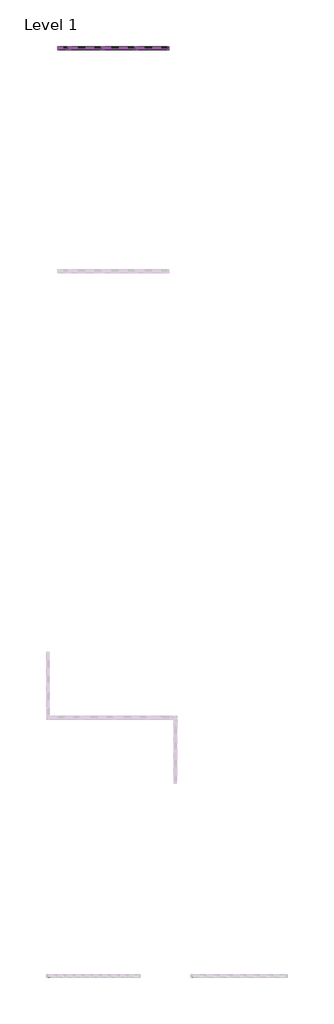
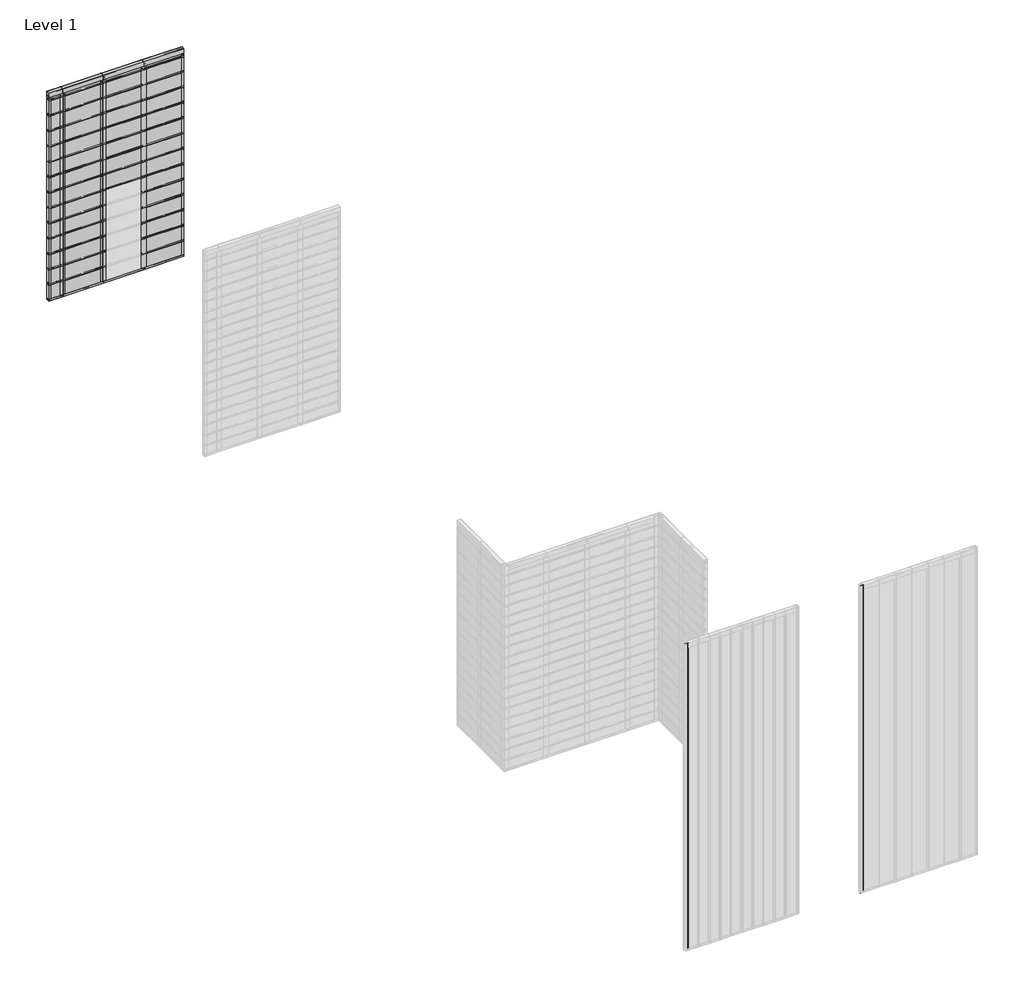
# One storey, part 6 of 6: 78 members, 52 plates.
"""IFC4 building model written with IfcOpenShell, lengths in millimetres."""

from ifc_helpers import new_model, si_unit, origin, place, context, project, spatial, transform, mapped, element, save
from components import rectangular_mullion_fastplank_2_piece_j_trim_top_41258425, rectangular_mullion_fastplank_2_piece_j_trim_top_c2ded550, rectangular_mullion_fastplank_2_piece_j_trim_top_f27fafb0, rectangular_mullion_fastplank_2_piece_vertical_trim_7b95ae3f, rectangular_mullion_fastplank_2_piece_vertical_trim_f2f3523c, rectangular_mullion_fastplank_2_piece_vertical_trim_9380873f, rectangular_mullion_fastplank_general_j_vertical_left_d777bbc9, rectangular_mullion_fastplank_general_j_vertical_left_623ef479, rectangular_mullion_fastplank_general_j_vertical_left_9ba2d4fe, rectangular_mullion_fastplank_perforated_starter_j_trim_76a2169d, rectangular_mullion_fastplank_perforated_starter_j_trim_cc9b52f4, rectangular_mullion_fastplank_perforated_starter_j_trim_a5b82761, plate_89dcd24a, plate_b794fd4a, plate_b0c13ac5, plate_d7aa4930, curtain_panel_curtain_panel_e2700ddb, curtain_panel_curtain_panel_f88c90b2

model = new_model("IFC4")

# Units and contexts
model_context = context("Model", 3, world=origin())
ifc_project = project(units=[si_unit("LENGTHUNIT", "METRE", prefix="MILLI")], contexts=[model_context])

# Site, building, storey
site = spatial("IfcSite", under=ifc_project)
building = spatial("IfcBuilding", under=site)
storey = spatial("IfcBuildingStorey", under=building, Name="Level 1", Elevation=0.0)

# Members
placement = place(None, origin())
rectangular_mullion_fastplank_2_piece_j_trim_top_shape = rectangular_mullion_fastplank_2_piece_j_trim_top_41258425(model_context)
element("IfcMember", 1, ObjectType="Rectangular Mullion : FastPlank_2-Piece-J-Trim-Top", at=placement, inside=storey, context=model_context, shape_type="MappedRepresentation", body=[
    mapped(rectangular_mullion_fastplank_2_piece_j_trim_top_shape, transform((-999.5316441, 9564.9134647, 2061.3058116), x_axis=(0.0, 0.0, 1.0), y_axis=(0.0, 1.0, 0.0), z_axis=(-1.0, 0.0, 0.0))),
])
rectangular_mullion_fastplank_2_piece_j_trim_top_2_shape = rectangular_mullion_fastplank_2_piece_j_trim_top_c2ded550(model_context)
element("IfcMember", 2, ObjectType="Rectangular Mullion : FastPlank_2-Piece-J-Trim-Top", at=placement, inside=storey, context=model_context, shape_type="MappedRepresentation", body=[
    mapped(rectangular_mullion_fastplank_2_piece_j_trim_top_2_shape, transform((-1892.9700325, 9564.9134647, 2061.3058116), x_axis=(0.0, 0.0, 1.0), y_axis=(0.0, 1.0, 0.0), z_axis=(-1.0, 0.0, 0.0))),
])
rectangular_mullion_fastplank_2_piece_j_trim_top_3_shape = rectangular_mullion_fastplank_2_piece_j_trim_top_f27fafb0(model_context)
element("IfcMember", 3, ObjectType="Rectangular Mullion : FastPlank_2-Piece-J-Trim-Top", at=placement, inside=storey, context=model_context, shape_type="MappedRepresentation", body=[
    mapped(rectangular_mullion_fastplank_2_piece_j_trim_top_3_shape, transform((-1380.5316441, 9564.9134647, 2061.3058116), x_axis=(0.0, 0.0, 1.0), y_axis=(0.0, 1.0, 0.0), z_axis=(-1.0, 0.0, 0.0))),
])
element("IfcMember", 4, ObjectType="Rectangular Mullion : FastPlank_2-Piece-J-Trim-Top", at=placement, inside=storey, context=model_context, shape_type="MappedRepresentation", body=[
    mapped(rectangular_mullion_fastplank_2_piece_j_trim_top_3_shape, transform((-1761.5316441, 9564.9134647, 2061.3058116), x_axis=(0.0, 0.0, 1.0), y_axis=(0.0, 1.0, 0.0), z_axis=(-1.0, 0.0, 0.0))),
])
rectangular_mullion_fastplank_2_piece_vertical_trim_shape = rectangular_mullion_fastplank_2_piece_vertical_trim_7b95ae3f(model_context)
element("IfcMember", 5, ObjectType="Rectangular Mullion : FastPlank_2-Piece-Vertical-Trim", at=placement, inside=storey, context=model_context, shape_type="MappedRepresentation", body=[
    mapped(rectangular_mullion_fastplank_2_piece_vertical_trim_shape, transform((-999.5316441, 9564.9134647, 19.05), x_axis=(-1.0, 0.0, 0.0), y_axis=(0.0, 1.0, 0.0), z_axis=(0.0, 0.0, -1.0))),
])
element("IfcMember", 6, ObjectType="Rectangular Mullion : FastPlank_2-Piece-Vertical-Trim", at=placement, inside=storey, context=model_context, shape_type="MappedRepresentation", body=[
    mapped(rectangular_mullion_fastplank_2_piece_vertical_trim_shape, transform((-1380.5316441, 9564.9134647, 19.05), x_axis=(-1.0, 0.0, 0.0), y_axis=(0.0, 1.0, 0.0), z_axis=(0.0, 0.0, -1.0))),
])
element("IfcMember", 7, ObjectType="Rectangular Mullion : FastPlank_2-Piece-Vertical-Trim", at=placement, inside=storey, context=model_context, shape_type="MappedRepresentation", body=[
    mapped(rectangular_mullion_fastplank_2_piece_vertical_trim_shape, transform((-1761.5316441, 9564.9134647, 19.05), x_axis=(-1.0, 0.0, 0.0), y_axis=(0.0, 1.0, 0.0), z_axis=(0.0, 0.0, -1.0))),
])
rectangular_mullion_fastplank_2_piece_vertical_trim_2_shape = rectangular_mullion_fastplank_2_piece_vertical_trim_f2f3523c(model_context)
element("IfcMember", 8, ObjectType="Rectangular Mullion : FastPlank_2-Piece-Vertical-Trim", at=placement, inside=storey, context=model_context, shape_type="MappedRepresentation", body=[
    mapped(rectangular_mullion_fastplank_2_piece_vertical_trim_2_shape, transform((-999.5316441, 9564.9134647, 153.7000189), x_axis=(-1.0, 0.0, 0.0), y_axis=(0.0, 1.0, 0.0), z_axis=(0.0, 0.0, -1.0))),
])
element("IfcMember", 9, ObjectType="Rectangular Mullion : FastPlank_2-Piece-Vertical-Trim", at=placement, inside=storey, context=model_context, shape_type="MappedRepresentation", body=[
    mapped(rectangular_mullion_fastplank_2_piece_vertical_trim_2_shape, transform((-999.5316441, 9564.9134647, 306.1000189), x_axis=(-1.0, 0.0, 0.0), y_axis=(0.0, 1.0, 0.0), z_axis=(0.0, 0.0, -1.0))),
])
element("IfcMember", 10, ObjectType="Rectangular Mullion : FastPlank_2-Piece-Vertical-Trim", at=placement, inside=storey, context=model_context, shape_type="MappedRepresentation", body=[
    mapped(rectangular_mullion_fastplank_2_piece_vertical_trim_2_shape, transform((-999.5316441, 9564.9134647, 458.5000189), x_axis=(-1.0, 0.0, 0.0), y_axis=(0.0, 1.0, 0.0), z_axis=(0.0, 0.0, -1.0))),
])
element("IfcMember", 11, ObjectType="Rectangular Mullion : FastPlank_2-Piece-Vertical-Trim", at=placement, inside=storey, context=model_context, shape_type="MappedRepresentation", body=[
    mapped(rectangular_mullion_fastplank_2_piece_vertical_trim_2_shape, transform((-999.5316441, 9564.9134647, 610.9000189), x_axis=(-1.0, 0.0, 0.0), y_axis=(0.0, 1.0, 0.0), z_axis=(0.0, 0.0, -1.0))),
])
element("IfcMember", 12, ObjectType="Rectangular Mullion : FastPlank_2-Piece-Vertical-Trim", at=placement, inside=storey, context=model_context, shape_type="MappedRepresentation", body=[
    mapped(rectangular_mullion_fastplank_2_piece_vertical_trim_2_shape, transform((-999.5316441, 9564.9134647, 763.3000189), x_axis=(-1.0, 0.0, 0.0), y_axis=(0.0, 1.0, 0.0), z_axis=(0.0, 0.0, -1.0))),
])
element("IfcMember", 13, ObjectType="Rectangular Mullion : FastPlank_2-Piece-Vertical-Trim", at=placement, inside=storey, context=model_context, shape_type="MappedRepresentation", body=[
    mapped(rectangular_mullion_fastplank_2_piece_vertical_trim_2_shape, transform((-999.5316441, 9564.9134647, 915.7000189), x_axis=(-1.0, 0.0, 0.0), y_axis=(0.0, 1.0, 0.0), z_axis=(0.0, 0.0, -1.0))),
])
element("IfcMember", 14, ObjectType="Rectangular Mullion : FastPlank_2-Piece-Vertical-Trim", at=placement, inside=storey, context=model_context, shape_type="MappedRepresentation", body=[
    mapped(rectangular_mullion_fastplank_2_piece_vertical_trim_2_shape, transform((-999.5316441, 9564.9134647, 1068.1000189), x_axis=(-1.0, 0.0, 0.0), y_axis=(0.0, 1.0, 0.0), z_axis=(0.0, 0.0, -1.0))),
])
element("IfcMember", 15, ObjectType="Rectangular Mullion : FastPlank_2-Piece-Vertical-Trim", at=placement, inside=storey, context=model_context, shape_type="MappedRepresentation", body=[
    mapped(rectangular_mullion_fastplank_2_piece_vertical_trim_2_shape, transform((-999.5316441, 9564.9134647, 1220.5000189), x_axis=(-1.0, 0.0, 0.0), y_axis=(0.0, 1.0, 0.0), z_axis=(0.0, 0.0, -1.0))),
])
element("IfcMember", 16, ObjectType="Rectangular Mullion : FastPlank_2-Piece-Vertical-Trim", at=placement, inside=storey, context=model_context, shape_type="MappedRepresentation", body=[
    mapped(rectangular_mullion_fastplank_2_piece_vertical_trim_2_shape, transform((-999.5316441, 9564.9134647, 1372.9000189), x_axis=(-1.0, 0.0, 0.0), y_axis=(0.0, 1.0, 0.0), z_axis=(0.0, 0.0, -1.0))),
])
element("IfcMember", 17, ObjectType="Rectangular Mullion : FastPlank_2-Piece-Vertical-Trim", at=placement, inside=storey, context=model_context, shape_type="MappedRepresentation", body=[
    mapped(rectangular_mullion_fastplank_2_piece_vertical_trim_2_shape, transform((-999.5316441, 9564.9134647, 1525.3000189), x_axis=(-1.0, 0.0, 0.0), y_axis=(0.0, 1.0, 0.0), z_axis=(0.0, 0.0, -1.0))),
])
element("IfcMember", 18, ObjectType="Rectangular Mullion : FastPlank_2-Piece-Vertical-Trim", at=placement, inside=storey, context=model_context, shape_type="MappedRepresentation", body=[
    mapped(rectangular_mullion_fastplank_2_piece_vertical_trim_2_shape, transform((-999.5316441, 9564.9134647, 1677.7000189), x_axis=(-1.0, 0.0, 0.0), y_axis=(0.0, 1.0, 0.0), z_axis=(0.0, 0.0, -1.0))),
])
element("IfcMember", 19, ObjectType="Rectangular Mullion : FastPlank_2-Piece-Vertical-Trim", at=placement, inside=storey, context=model_context, shape_type="MappedRepresentation", body=[
    mapped(rectangular_mullion_fastplank_2_piece_vertical_trim_2_shape, transform((-1380.5316441, 9564.9134647, 153.7000189), x_axis=(-1.0, 0.0, 0.0), y_axis=(0.0, 1.0, 0.0), z_axis=(0.0, 0.0, -1.0))),
])
element("IfcMember", 20, ObjectType="Rectangular Mullion : FastPlank_2-Piece-Vertical-Trim", at=placement, inside=storey, context=model_context, shape_type="MappedRepresentation", body=[
    mapped(rectangular_mullion_fastplank_2_piece_vertical_trim_2_shape, transform((-1761.5316441, 9564.9134647, 153.7000189), x_axis=(-1.0, 0.0, 0.0), y_axis=(0.0, 1.0, 0.0), z_axis=(0.0, 0.0, -1.0))),
])
element("IfcMember", 21, ObjectType="Rectangular Mullion : FastPlank_2-Piece-Vertical-Trim", at=placement, inside=storey, context=model_context, shape_type="MappedRepresentation", body=[
    mapped(rectangular_mullion_fastplank_2_piece_vertical_trim_2_shape, transform((-1380.5316441, 9564.9134647, 306.1000189), x_axis=(-1.0, 0.0, 0.0), y_axis=(0.0, 1.0, 0.0), z_axis=(0.0, 0.0, -1.0))),
])
element("IfcMember", 22, ObjectType="Rectangular Mullion : FastPlank_2-Piece-Vertical-Trim", at=placement, inside=storey, context=model_context, shape_type="MappedRepresentation", body=[
    mapped(rectangular_mullion_fastplank_2_piece_vertical_trim_2_shape, transform((-1761.5316441, 9564.9134647, 306.1000189), x_axis=(-1.0, 0.0, 0.0), y_axis=(0.0, 1.0, 0.0), z_axis=(0.0, 0.0, -1.0))),
])
element("IfcMember", 23, ObjectType="Rectangular Mullion : FastPlank_2-Piece-Vertical-Trim", at=placement, inside=storey, context=model_context, shape_type="MappedRepresentation", body=[
    mapped(rectangular_mullion_fastplank_2_piece_vertical_trim_2_shape, transform((-1380.5316441, 9564.9134647, 458.5000189), x_axis=(-1.0, 0.0, 0.0), y_axis=(0.0, 1.0, 0.0), z_axis=(0.0, 0.0, -1.0))),
])
element("IfcMember", 24, ObjectType="Rectangular Mullion : FastPlank_2-Piece-Vertical-Trim", at=placement, inside=storey, context=model_context, shape_type="MappedRepresentation", body=[
    mapped(rectangular_mullion_fastplank_2_piece_vertical_trim_2_shape, transform((-1761.5316441, 9564.9134647, 458.5000189), x_axis=(-1.0, 0.0, 0.0), y_axis=(0.0, 1.0, 0.0), z_axis=(0.0, 0.0, -1.0))),
])
element("IfcMember", 25, ObjectType="Rectangular Mullion : FastPlank_2-Piece-Vertical-Trim", at=placement, inside=storey, context=model_context, shape_type="MappedRepresentation", body=[
    mapped(rectangular_mullion_fastplank_2_piece_vertical_trim_2_shape, transform((-1380.5316441, 9564.9134647, 610.9000189), x_axis=(-1.0, 0.0, 0.0), y_axis=(0.0, 1.0, 0.0), z_axis=(0.0, 0.0, -1.0))),
])
element("IfcMember", 26, ObjectType="Rectangular Mullion : FastPlank_2-Piece-Vertical-Trim", at=placement, inside=storey, context=model_context, shape_type="MappedRepresentation", body=[
    mapped(rectangular_mullion_fastplank_2_piece_vertical_trim_2_shape, transform((-1761.5316441, 9564.9134647, 610.9000189), x_axis=(-1.0, 0.0, 0.0), y_axis=(0.0, 1.0, 0.0), z_axis=(0.0, 0.0, -1.0))),
])
element("IfcMember", 27, ObjectType="Rectangular Mullion : FastPlank_2-Piece-Vertical-Trim", at=placement, inside=storey, context=model_context, shape_type="MappedRepresentation", body=[
    mapped(rectangular_mullion_fastplank_2_piece_vertical_trim_2_shape, transform((-1380.5316441, 9564.9134647, 763.3000189), x_axis=(-1.0, 0.0, 0.0), y_axis=(0.0, 1.0, 0.0), z_axis=(0.0, 0.0, -1.0))),
])
element("IfcMember", 28, ObjectType="Rectangular Mullion : FastPlank_2-Piece-Vertical-Trim", at=placement, inside=storey, context=model_context, shape_type="MappedRepresentation", body=[
    mapped(rectangular_mullion_fastplank_2_piece_vertical_trim_2_shape, transform((-1761.5316441, 9564.9134647, 763.3000189), x_axis=(-1.0, 0.0, 0.0), y_axis=(0.0, 1.0, 0.0), z_axis=(0.0, 0.0, -1.0))),
])
element("IfcMember", 29, ObjectType="Rectangular Mullion : FastPlank_2-Piece-Vertical-Trim", at=placement, inside=storey, context=model_context, shape_type="MappedRepresentation", body=[
    mapped(rectangular_mullion_fastplank_2_piece_vertical_trim_2_shape, transform((-1380.5316441, 9564.9134647, 915.7000189), x_axis=(-1.0, 0.0, 0.0), y_axis=(0.0, 1.0, 0.0), z_axis=(0.0, 0.0, -1.0))),
])
element("IfcMember", 30, ObjectType="Rectangular Mullion : FastPlank_2-Piece-Vertical-Trim", at=placement, inside=storey, context=model_context, shape_type="MappedRepresentation", body=[
    mapped(rectangular_mullion_fastplank_2_piece_vertical_trim_2_shape, transform((-1761.5316441, 9564.9134647, 915.7000189), x_axis=(-1.0, 0.0, 0.0), y_axis=(0.0, 1.0, 0.0), z_axis=(0.0, 0.0, -1.0))),
])
element("IfcMember", 31, ObjectType="Rectangular Mullion : FastPlank_2-Piece-Vertical-Trim", at=placement, inside=storey, context=model_context, shape_type="MappedRepresentation", body=[
    mapped(rectangular_mullion_fastplank_2_piece_vertical_trim_2_shape, transform((-1380.5316441, 9564.9134647, 1068.1000189), x_axis=(-1.0, 0.0, 0.0), y_axis=(0.0, 1.0, 0.0), z_axis=(0.0, 0.0, -1.0))),
])
element("IfcMember", 32, ObjectType="Rectangular Mullion : FastPlank_2-Piece-Vertical-Trim", at=placement, inside=storey, context=model_context, shape_type="MappedRepresentation", body=[
    mapped(rectangular_mullion_fastplank_2_piece_vertical_trim_2_shape, transform((-1761.5316441, 9564.9134647, 1068.1000189), x_axis=(-1.0, 0.0, 0.0), y_axis=(0.0, 1.0, 0.0), z_axis=(0.0, 0.0, -1.0))),
])
element("IfcMember", 33, ObjectType="Rectangular Mullion : FastPlank_2-Piece-Vertical-Trim", at=placement, inside=storey, context=model_context, shape_type="MappedRepresentation", body=[
    mapped(rectangular_mullion_fastplank_2_piece_vertical_trim_2_shape, transform((-1380.5316441, 9564.9134647, 1220.5000189), x_axis=(-1.0, 0.0, 0.0), y_axis=(0.0, 1.0, 0.0), z_axis=(0.0, 0.0, -1.0))),
])
element("IfcMember", 34, ObjectType="Rectangular Mullion : FastPlank_2-Piece-Vertical-Trim", at=placement, inside=storey, context=model_context, shape_type="MappedRepresentation", body=[
    mapped(rectangular_mullion_fastplank_2_piece_vertical_trim_2_shape, transform((-1761.5316441, 9564.9134647, 1220.5000189), x_axis=(-1.0, 0.0, 0.0), y_axis=(0.0, 1.0, 0.0), z_axis=(0.0, 0.0, -1.0))),
])
element("IfcMember", 35, ObjectType="Rectangular Mullion : FastPlank_2-Piece-Vertical-Trim", at=placement, inside=storey, context=model_context, shape_type="MappedRepresentation", body=[
    mapped(rectangular_mullion_fastplank_2_piece_vertical_trim_2_shape, transform((-1380.5316441, 9564.9134647, 1372.9000189), x_axis=(-1.0, 0.0, 0.0), y_axis=(0.0, 1.0, 0.0), z_axis=(0.0, 0.0, -1.0))),
])
element("IfcMember", 36, ObjectType="Rectangular Mullion : FastPlank_2-Piece-Vertical-Trim", at=placement, inside=storey, context=model_context, shape_type="MappedRepresentation", body=[
    mapped(rectangular_mullion_fastplank_2_piece_vertical_trim_2_shape, transform((-1761.5316441, 9564.9134647, 1372.9000189), x_axis=(-1.0, 0.0, 0.0), y_axis=(0.0, 1.0, 0.0), z_axis=(0.0, 0.0, -1.0))),
])
element("IfcMember", 37, ObjectType="Rectangular Mullion : FastPlank_2-Piece-Vertical-Trim", at=placement, inside=storey, context=model_context, shape_type="MappedRepresentation", body=[
    mapped(rectangular_mullion_fastplank_2_piece_vertical_trim_2_shape, transform((-1380.5316441, 9564.9134647, 1525.3000189), x_axis=(-1.0, 0.0, 0.0), y_axis=(0.0, 1.0, 0.0), z_axis=(0.0, 0.0, -1.0))),
])
element("IfcMember", 38, ObjectType="Rectangular Mullion : FastPlank_2-Piece-Vertical-Trim", at=placement, inside=storey, context=model_context, shape_type="MappedRepresentation", body=[
    mapped(rectangular_mullion_fastplank_2_piece_vertical_trim_2_shape, transform((-1761.5316441, 9564.9134647, 1525.3000189), x_axis=(-1.0, 0.0, 0.0), y_axis=(0.0, 1.0, 0.0), z_axis=(0.0, 0.0, -1.0))),
])
element("IfcMember", 39, ObjectType="Rectangular Mullion : FastPlank_2-Piece-Vertical-Trim", at=placement, inside=storey, context=model_context, shape_type="MappedRepresentation", body=[
    mapped(rectangular_mullion_fastplank_2_piece_vertical_trim_2_shape, transform((-1380.5316441, 9564.9134647, 1677.7000189), x_axis=(-1.0, 0.0, 0.0), y_axis=(0.0, 1.0, 0.0), z_axis=(0.0, 0.0, -1.0))),
])
element("IfcMember", 40, ObjectType="Rectangular Mullion : FastPlank_2-Piece-Vertical-Trim", at=placement, inside=storey, context=model_context, shape_type="MappedRepresentation", body=[
    mapped(rectangular_mullion_fastplank_2_piece_vertical_trim_2_shape, transform((-1761.5316441, 9564.9134647, 1677.7000189), x_axis=(-1.0, 0.0, 0.0), y_axis=(0.0, 1.0, 0.0), z_axis=(0.0, 0.0, -1.0))),
])
element("IfcMember", 41, ObjectType="Rectangular Mullion : FastPlank_2-Piece-Vertical-Trim", at=placement, inside=storey, context=model_context, shape_type="MappedRepresentation", body=[
    mapped(rectangular_mullion_fastplank_2_piece_vertical_trim_2_shape, transform((-999.5316441, 9564.9134647, 1830.1000189), x_axis=(-1.0, 0.0, 0.0), y_axis=(0.0, 1.0, 0.0), z_axis=(0.0, 0.0, -1.0))),
])
element("IfcMember", 42, ObjectType="Rectangular Mullion : FastPlank_2-Piece-Vertical-Trim", at=placement, inside=storey, context=model_context, shape_type="MappedRepresentation", body=[
    mapped(rectangular_mullion_fastplank_2_piece_vertical_trim_2_shape, transform((-1380.5316441, 9564.9134647, 1830.1000189), x_axis=(-1.0, 0.0, 0.0), y_axis=(0.0, 1.0, 0.0), z_axis=(0.0, 0.0, -1.0))),
])
element("IfcMember", 43, ObjectType="Rectangular Mullion : FastPlank_2-Piece-Vertical-Trim", at=placement, inside=storey, context=model_context, shape_type="MappedRepresentation", body=[
    mapped(rectangular_mullion_fastplank_2_piece_vertical_trim_2_shape, transform((-1761.5316441, 9564.9134647, 1830.1000189), x_axis=(-1.0, 0.0, 0.0), y_axis=(0.0, 1.0, 0.0), z_axis=(0.0, 0.0, -1.0))),
])
rectangular_mullion_fastplank_2_piece_vertical_trim_3_shape = rectangular_mullion_fastplank_2_piece_vertical_trim_9380873f(model_context)
element("IfcMember", 44, ObjectType="Rectangular Mullion : FastPlank_2-Piece-Vertical-Trim", at=placement, inside=storey, context=model_context, shape_type="MappedRepresentation", body=[
    mapped(rectangular_mullion_fastplank_2_piece_vertical_trim_3_shape, transform((-999.5316441, 9564.9134647, 1982.5000189), x_axis=(-1.0, 0.0, 0.0), y_axis=(0.0, 1.0, 0.0), z_axis=(0.0, 0.0, -1.0))),
])
element("IfcMember", 45, ObjectType="Rectangular Mullion : FastPlank_2-Piece-Vertical-Trim", at=placement, inside=storey, context=model_context, shape_type="MappedRepresentation", body=[
    mapped(rectangular_mullion_fastplank_2_piece_vertical_trim_3_shape, transform((-1380.5316441, 9564.9134647, 1982.5000189), x_axis=(-1.0, 0.0, 0.0), y_axis=(0.0, 1.0, 0.0), z_axis=(0.0, 0.0, -1.0))),
])
element("IfcMember", 46, ObjectType="Rectangular Mullion : FastPlank_2-Piece-Vertical-Trim", at=placement, inside=storey, context=model_context, shape_type="MappedRepresentation", body=[
    mapped(rectangular_mullion_fastplank_2_piece_vertical_trim_3_shape, transform((-1761.5316441, 9564.9134647, 1982.5000189), x_axis=(-1.0, 0.0, 0.0), y_axis=(0.0, 1.0, 0.0), z_axis=(0.0, 0.0, -1.0))),
])
rectangular_mullion_fastplank_general_j_vertical_left_shape = rectangular_mullion_fastplank_general_j_vertical_left_d777bbc9(model_context)
element("IfcMember", 47, ObjectType="Rectangular Mullion : FastPlank_General-J-Vertical-Left", at=placement, inside=storey, context=model_context, shape_type="MappedRepresentation", body=[
    mapped(rectangular_mullion_fastplank_general_j_vertical_left_shape, transform((-1892.9700325, 9564.9134647, 19.05), x_axis=(-1.0, 0.0, 0.0), y_axis=(0.0, 1.0, 0.0), z_axis=(0.0, 0.0, -1.0))),
])
rectangular_mullion_fastplank_general_j_vertical_left_2_shape = rectangular_mullion_fastplank_general_j_vertical_left_623ef479(model_context)
element("IfcMember", 48, ObjectType="Rectangular Mullion : FastPlank_General-J-Vertical-Left", at=placement, inside=storey, context=model_context, shape_type="MappedRepresentation", body=[
    mapped(rectangular_mullion_fastplank_general_j_vertical_left_2_shape, transform((-1892.9700325, 9564.9134647, 153.7000189), x_axis=(-1.0, 0.0, 0.0), y_axis=(0.0, 1.0, 0.0), z_axis=(0.0, 0.0, -1.0))),
])
element("IfcMember", 49, ObjectType="Rectangular Mullion : FastPlank_General-J-Vertical-Left", at=placement, inside=storey, context=model_context, shape_type="MappedRepresentation", body=[
    mapped(rectangular_mullion_fastplank_general_j_vertical_left_2_shape, transform((-1892.9700325, 9564.9134647, 306.1000189), x_axis=(-1.0, 0.0, 0.0), y_axis=(0.0, 1.0, 0.0), z_axis=(0.0, 0.0, -1.0))),
])
element("IfcMember", 50, ObjectType="Rectangular Mullion : FastPlank_General-J-Vertical-Left", at=placement, inside=storey, context=model_context, shape_type="MappedRepresentation", body=[
    mapped(rectangular_mullion_fastplank_general_j_vertical_left_2_shape, transform((-1892.9700325, 9564.9134647, 458.5000189), x_axis=(-1.0, 0.0, 0.0), y_axis=(0.0, 1.0, 0.0), z_axis=(0.0, 0.0, -1.0))),
])
element("IfcMember", 51, ObjectType="Rectangular Mullion : FastPlank_General-J-Vertical-Left", at=placement, inside=storey, context=model_context, shape_type="MappedRepresentation", body=[
    mapped(rectangular_mullion_fastplank_general_j_vertical_left_2_shape, transform((-1892.9700325, 9564.9134647, 610.9000189), x_axis=(-1.0, 0.0, 0.0), y_axis=(0.0, 1.0, 0.0), z_axis=(0.0, 0.0, -1.0))),
])
element("IfcMember", 52, ObjectType="Rectangular Mullion : FastPlank_General-J-Vertical-Left", at=placement, inside=storey, context=model_context, shape_type="MappedRepresentation", body=[
    mapped(rectangular_mullion_fastplank_general_j_vertical_left_2_shape, transform((-1892.9700325, 9564.9134647, 763.3000189), x_axis=(-1.0, 0.0, 0.0), y_axis=(0.0, 1.0, 0.0), z_axis=(0.0, 0.0, -1.0))),
])
element("IfcMember", 53, ObjectType="Rectangular Mullion : FastPlank_General-J-Vertical-Left", at=placement, inside=storey, context=model_context, shape_type="MappedRepresentation", body=[
    mapped(rectangular_mullion_fastplank_general_j_vertical_left_2_shape, transform((-1892.9700325, 9564.9134647, 915.7000189), x_axis=(-1.0, 0.0, 0.0), y_axis=(0.0, 1.0, 0.0), z_axis=(0.0, 0.0, -1.0))),
])
element("IfcMember", 54, ObjectType="Rectangular Mullion : FastPlank_General-J-Vertical-Left", at=placement, inside=storey, context=model_context, shape_type="MappedRepresentation", body=[
    mapped(rectangular_mullion_fastplank_general_j_vertical_left_2_shape, transform((-1892.9700325, 9564.9134647, 1068.1000189), x_axis=(-1.0, 0.0, 0.0), y_axis=(0.0, 1.0, 0.0), z_axis=(0.0, 0.0, -1.0))),
])
element("IfcMember", 55, ObjectType="Rectangular Mullion : FastPlank_General-J-Vertical-Left", at=placement, inside=storey, context=model_context, shape_type="MappedRepresentation", body=[
    mapped(rectangular_mullion_fastplank_general_j_vertical_left_2_shape, transform((-1892.9700325, 9564.9134647, 1220.5000189), x_axis=(-1.0, 0.0, 0.0), y_axis=(0.0, 1.0, 0.0), z_axis=(0.0, 0.0, -1.0))),
])
element("IfcMember", 56, ObjectType="Rectangular Mullion : FastPlank_General-J-Vertical-Left", at=placement, inside=storey, context=model_context, shape_type="MappedRepresentation", body=[
    mapped(rectangular_mullion_fastplank_general_j_vertical_left_2_shape, transform((-1892.9700325, 9564.9134647, 1372.9000189), x_axis=(-1.0, 0.0, 0.0), y_axis=(0.0, 1.0, 0.0), z_axis=(0.0, 0.0, -1.0))),
])
element("IfcMember", 57, ObjectType="Rectangular Mullion : FastPlank_General-J-Vertical-Left", at=placement, inside=storey, context=model_context, shape_type="MappedRepresentation", body=[
    mapped(rectangular_mullion_fastplank_general_j_vertical_left_2_shape, transform((-1892.9700325, 9564.9134647, 1525.3000189), x_axis=(-1.0, 0.0, 0.0), y_axis=(0.0, 1.0, 0.0), z_axis=(0.0, 0.0, -1.0))),
])
element("IfcMember", 58, ObjectType="Rectangular Mullion : FastPlank_General-J-Vertical-Left", at=placement, inside=storey, context=model_context, shape_type="MappedRepresentation", body=[
    mapped(rectangular_mullion_fastplank_general_j_vertical_left_2_shape, transform((-1892.9700325, 9564.9134647, 1677.7000189), x_axis=(-1.0, 0.0, 0.0), y_axis=(0.0, 1.0, 0.0), z_axis=(0.0, 0.0, -1.0))),
])
element("IfcMember", 59, ObjectType="Rectangular Mullion : FastPlank_General-J-Vertical-Left", at=placement, inside=storey, context=model_context, shape_type="MappedRepresentation", body=[
    mapped(rectangular_mullion_fastplank_general_j_vertical_left_2_shape, transform((-1892.9700325, 9564.9134647, 1830.1000189), x_axis=(-1.0, 0.0, 0.0), y_axis=(0.0, 1.0, 0.0), z_axis=(0.0, 0.0, -1.0))),
])
rectangular_mullion_fastplank_general_j_vertical_left_3_shape = rectangular_mullion_fastplank_general_j_vertical_left_9ba2d4fe(model_context)
element("IfcMember", 60, ObjectType="Rectangular Mullion : FastPlank_General-J-Vertical-Left", at=placement, inside=storey, context=model_context, shape_type="MappedRepresentation", body=[
    mapped(rectangular_mullion_fastplank_general_j_vertical_left_3_shape, transform((-1892.9700325, 9564.9134647, 1982.5000189), x_axis=(-1.0, 0.0, 0.0), y_axis=(0.0, 1.0, 0.0), z_axis=(0.0, 0.0, -1.0))),
])
element("IfcMember", 61, ObjectType="Rectangular Mullion : FastPlank_General-J-Vertical-Right", at=placement, inside=storey, context=model_context, shape_type="MappedRepresentation", body=[
    mapped(rectangular_mullion_fastplank_general_j_vertical_left_shape, transform((-622.9700325, 9564.9134647, 153.7000189), x_axis=(1.0, 0.0, 0.0), y_axis=(0.0, 1.0, 0.0), z_axis=(0.0, 0.0, 1.0))),
])
element("IfcMember", 62, ObjectType="Rectangular Mullion : FastPlank_General-J-Vertical-Right", at=placement, inside=storey, context=model_context, shape_type="MappedRepresentation", body=[
    mapped(rectangular_mullion_fastplank_general_j_vertical_left_2_shape, transform((-622.9700325, 9564.9134647, 306.1000189), x_axis=(1.0, 0.0, 0.0), y_axis=(0.0, 1.0, 0.0), z_axis=(0.0, 0.0, 1.0))),
])
element("IfcMember", 63, ObjectType="Rectangular Mullion : FastPlank_General-J-Vertical-Right", at=placement, inside=storey, context=model_context, shape_type="MappedRepresentation", body=[
    mapped(rectangular_mullion_fastplank_general_j_vertical_left_2_shape, transform((-622.9700325, 9564.9134647, 458.5000189), x_axis=(1.0, 0.0, 0.0), y_axis=(0.0, 1.0, 0.0), z_axis=(0.0, 0.0, 1.0))),
])
element("IfcMember", 64, ObjectType="Rectangular Mullion : FastPlank_General-J-Vertical-Right", at=placement, inside=storey, context=model_context, shape_type="MappedRepresentation", body=[
    mapped(rectangular_mullion_fastplank_general_j_vertical_left_2_shape, transform((-622.9700325, 9564.9134647, 610.9000189), x_axis=(1.0, 0.0, 0.0), y_axis=(0.0, 1.0, 0.0), z_axis=(0.0, 0.0, 1.0))),
])
element("IfcMember", 65, ObjectType="Rectangular Mullion : FastPlank_General-J-Vertical-Right", at=placement, inside=storey, context=model_context, shape_type="MappedRepresentation", body=[
    mapped(rectangular_mullion_fastplank_general_j_vertical_left_2_shape, transform((-622.9700325, 9564.9134647, 763.3000189), x_axis=(1.0, 0.0, 0.0), y_axis=(0.0, 1.0, 0.0), z_axis=(0.0, 0.0, 1.0))),
])
element("IfcMember", 66, ObjectType="Rectangular Mullion : FastPlank_General-J-Vertical-Right", at=placement, inside=storey, context=model_context, shape_type="MappedRepresentation", body=[
    mapped(rectangular_mullion_fastplank_general_j_vertical_left_2_shape, transform((-622.9700325, 9564.9134647, 915.7000189), x_axis=(1.0, 0.0, 0.0), y_axis=(0.0, 1.0, 0.0), z_axis=(0.0, 0.0, 1.0))),
])
element("IfcMember", 67, ObjectType="Rectangular Mullion : FastPlank_General-J-Vertical-Right", at=placement, inside=storey, context=model_context, shape_type="MappedRepresentation", body=[
    mapped(rectangular_mullion_fastplank_general_j_vertical_left_2_shape, transform((-622.9700325, 9564.9134647, 1068.1000189), x_axis=(1.0, 0.0, 0.0), y_axis=(0.0, 1.0, 0.0), z_axis=(0.0, 0.0, 1.0))),
])
element("IfcMember", 68, ObjectType="Rectangular Mullion : FastPlank_General-J-Vertical-Right", at=placement, inside=storey, context=model_context, shape_type="MappedRepresentation", body=[
    mapped(rectangular_mullion_fastplank_general_j_vertical_left_2_shape, transform((-622.9700325, 9564.9134647, 1220.5000189), x_axis=(1.0, 0.0, 0.0), y_axis=(0.0, 1.0, 0.0), z_axis=(0.0, 0.0, 1.0))),
])
element("IfcMember", 69, ObjectType="Rectangular Mullion : FastPlank_General-J-Vertical-Right", at=placement, inside=storey, context=model_context, shape_type="MappedRepresentation", body=[
    mapped(rectangular_mullion_fastplank_general_j_vertical_left_2_shape, transform((-622.9700325, 9564.9134647, 1372.9000189), x_axis=(1.0, 0.0, 0.0), y_axis=(0.0, 1.0, 0.0), z_axis=(0.0, 0.0, 1.0))),
])
element("IfcMember", 70, ObjectType="Rectangular Mullion : FastPlank_General-J-Vertical-Right", at=placement, inside=storey, context=model_context, shape_type="MappedRepresentation", body=[
    mapped(rectangular_mullion_fastplank_general_j_vertical_left_2_shape, transform((-622.9700325, 9564.9134647, 1525.3000189), x_axis=(1.0, 0.0, 0.0), y_axis=(0.0, 1.0, 0.0), z_axis=(0.0, 0.0, 1.0))),
])
element("IfcMember", 71, ObjectType="Rectangular Mullion : FastPlank_General-J-Vertical-Right", at=placement, inside=storey, context=model_context, shape_type="MappedRepresentation", body=[
    mapped(rectangular_mullion_fastplank_general_j_vertical_left_2_shape, transform((-622.9700325, 9564.9134647, 1677.7000189), x_axis=(1.0, 0.0, 0.0), y_axis=(0.0, 1.0, 0.0), z_axis=(0.0, 0.0, 1.0))),
])
element("IfcMember", 72, ObjectType="Rectangular Mullion : FastPlank_General-J-Vertical-Right", at=placement, inside=storey, context=model_context, shape_type="MappedRepresentation", body=[
    mapped(rectangular_mullion_fastplank_general_j_vertical_left_2_shape, transform((-622.9700325, 9564.9134647, 1830.1000189), x_axis=(1.0, 0.0, 0.0), y_axis=(0.0, 1.0, 0.0), z_axis=(0.0, 0.0, 1.0))),
])
element("IfcMember", 73, ObjectType="Rectangular Mullion : FastPlank_General-J-Vertical-Right", at=placement, inside=storey, context=model_context, shape_type="MappedRepresentation", body=[
    mapped(rectangular_mullion_fastplank_general_j_vertical_left_2_shape, transform((-622.9700325, 9564.9134647, 1982.5000189), x_axis=(1.0, 0.0, 0.0), y_axis=(0.0, 1.0, 0.0), z_axis=(0.0, 0.0, 1.0))),
])
element("IfcMember", 74, ObjectType="Rectangular Mullion : FastPlank_General-J-Vertical-Right", at=placement, inside=storey, context=model_context, shape_type="MappedRepresentation", body=[
    mapped(rectangular_mullion_fastplank_general_j_vertical_left_3_shape, transform((-622.9700325, 9564.9134647, 2016.8583101), x_axis=(1.0, 0.0, 0.0), y_axis=(0.0, 1.0, 0.0), z_axis=(0.0, 0.0, 1.0))),
])
rectangular_mullion_fastplank_perforated_starter_j_trim_shape = rectangular_mullion_fastplank_perforated_starter_j_trim_76a2169d(model_context)
element("IfcMember", 75, ObjectType="Rectangular Mullion : FastPlank_Perforated-Starter-J-Trim", at=placement, inside=storey, context=model_context, shape_type="MappedRepresentation", body=[
    mapped(rectangular_mullion_fastplank_perforated_starter_j_trim_shape, transform((-999.5316441, 9564.9134647, 0.0), x_axis=(0.0, 0.0, -1.0), y_axis=(0.0, 1.0, 0.0), z_axis=(1.0, 0.0, 0.0))),
])
element("IfcMember", 76, ObjectType="Rectangular Mullion : FastPlank_Perforated-Starter-J-Trim", at=placement, inside=storey, context=model_context, shape_type="MappedRepresentation", body=[
    mapped(rectangular_mullion_fastplank_perforated_starter_j_trim_shape, transform((-1380.5316441, 9564.9134647, 0.0), x_axis=(0.0, 0.0, -1.0), y_axis=(0.0, 1.0, 0.0), z_axis=(1.0, 0.0, 0.0))),
])
rectangular_mullion_fastplank_perforated_starter_j_trim_2_shape = rectangular_mullion_fastplank_perforated_starter_j_trim_cc9b52f4(model_context)
element("IfcMember", 77, ObjectType="Rectangular Mullion : FastPlank_Perforated-Starter-J-Trim", at=placement, inside=storey, context=model_context, shape_type="MappedRepresentation", body=[
    mapped(rectangular_mullion_fastplank_perforated_starter_j_trim_2_shape, transform((-1761.5316441, 9564.9134647, 0.0), x_axis=(0.0, 0.0, -1.0), y_axis=(0.0, 1.0, 0.0), z_axis=(1.0, 0.0, 0.0))),
])
rectangular_mullion_fastplank_perforated_starter_j_trim_3_shape = rectangular_mullion_fastplank_perforated_starter_j_trim_a5b82761(model_context)
element("IfcMember", 78, ObjectType="Rectangular Mullion : FastPlank_Perforated-Starter-J-Trim", at=placement, inside=storey, context=model_context, shape_type="MappedRepresentation", body=[
    mapped(rectangular_mullion_fastplank_perforated_starter_j_trim_3_shape, transform((-622.9700325, 9564.9134647, 0.0), x_axis=(0.0, 0.0, -1.0), y_axis=(0.0, 1.0, 0.0), z_axis=(1.0, 0.0, 0.0))),
])

# Plates
plate_shape = plate_89dcd24a(model_context)
element("IfcPlate", 79, ObjectType="FastPlank_P46V-V-Notch-6″-Plank-Horizontal : P46V-V-Notch-6″-Plank-Horizontal", at=placement, inside=storey, context=model_context, shape_type="MappedRepresentation", body=[
    mapped(plate_shape, transform((-809.0316439, 9564.9134647, 1.3000189), x_axis=(-1.0, 0.0, 0.0), y_axis=(0.0, -1.0, 0.0), z_axis=(0.0, 0.0, 1.0))),
])
element("IfcPlate", 80, ObjectType="FastPlank_P46V-V-Notch-6″-Plank-Horizontal : P46V-V-Notch-6″-Plank-Horizontal", at=placement, inside=storey, context=model_context, shape_type="MappedRepresentation", body=[
    mapped(plate_shape, transform((-809.0316439, 9564.9134647, 153.7000189), x_axis=(-1.0, 0.0, 0.0), y_axis=(0.0, -1.0, 0.0), z_axis=(0.0, 0.0, 1.0))),
])
element("IfcPlate", 81, ObjectType="FastPlank_P46V-V-Notch-6″-Plank-Horizontal : P46V-V-Notch-6″-Plank-Horizontal", at=placement, inside=storey, context=model_context, shape_type="MappedRepresentation", body=[
    mapped(plate_shape, transform((-809.0316439, 9564.9134647, 306.1000189), x_axis=(-1.0, 0.0, 0.0), y_axis=(0.0, -1.0, 0.0), z_axis=(0.0, 0.0, 1.0))),
])
element("IfcPlate", 82, ObjectType="FastPlank_P46V-V-Notch-6″-Plank-Horizontal : P46V-V-Notch-6″-Plank-Horizontal", at=placement, inside=storey, context=model_context, shape_type="MappedRepresentation", body=[
    mapped(plate_shape, transform((-809.0316439, 9564.9134647, 458.5000189), x_axis=(-1.0, 0.0, 0.0), y_axis=(0.0, -1.0, 0.0), z_axis=(0.0, 0.0, 1.0))),
])
element("IfcPlate", 83, ObjectType="FastPlank_P46V-V-Notch-6″-Plank-Horizontal : P46V-V-Notch-6″-Plank-Horizontal", at=placement, inside=storey, context=model_context, shape_type="MappedRepresentation", body=[
    mapped(plate_shape, transform((-809.0316439, 9564.9134647, 610.9000189), x_axis=(-1.0, 0.0, 0.0), y_axis=(0.0, -1.0, 0.0), z_axis=(0.0, 0.0, 1.0))),
])
element("IfcPlate", 84, ObjectType="FastPlank_P46V-V-Notch-6″-Plank-Horizontal : P46V-V-Notch-6″-Plank-Horizontal", at=placement, inside=storey, context=model_context, shape_type="MappedRepresentation", body=[
    mapped(plate_shape, transform((-809.0316439, 9564.9134647, 763.3000189), x_axis=(-1.0, 0.0, 0.0), y_axis=(0.0, -1.0, 0.0), z_axis=(0.0, 0.0, 1.0))),
])
element("IfcPlate", 85, ObjectType="FastPlank_P46V-V-Notch-6″-Plank-Horizontal : P46V-V-Notch-6″-Plank-Horizontal", at=placement, inside=storey, context=model_context, shape_type="MappedRepresentation", body=[
    mapped(plate_shape, transform((-809.0316439, 9564.9134647, 915.7000189), x_axis=(-1.0, 0.0, 0.0), y_axis=(0.0, -1.0, 0.0), z_axis=(0.0, 0.0, 1.0))),
])
element("IfcPlate", 86, ObjectType="FastPlank_P46V-V-Notch-6″-Plank-Horizontal : P46V-V-Notch-6″-Plank-Horizontal", at=placement, inside=storey, context=model_context, shape_type="MappedRepresentation", body=[
    mapped(plate_shape, transform((-1190.0316441, 9564.9134647, 915.7000189), x_axis=(-1.0, 0.0, 0.0), y_axis=(0.0, -1.0, 0.0), z_axis=(0.0, 0.0, 1.0))),
])
element("IfcPlate", 87, ObjectType="FastPlank_P46V-V-Notch-6″-Plank-Horizontal : P46V-V-Notch-6″-Plank-Horizontal", at=placement, inside=storey, context=model_context, shape_type="MappedRepresentation", body=[
    mapped(plate_shape, transform((-809.0316439, 9564.9134647, 1068.1000189), x_axis=(-1.0, 0.0, 0.0), y_axis=(0.0, -1.0, 0.0), z_axis=(0.0, 0.0, 1.0))),
])
element("IfcPlate", 88, ObjectType="FastPlank_P46V-V-Notch-6″-Plank-Horizontal : P46V-V-Notch-6″-Plank-Horizontal", at=placement, inside=storey, context=model_context, shape_type="MappedRepresentation", body=[
    mapped(plate_shape, transform((-1190.0316441, 9564.9134647, 1068.1000189), x_axis=(-1.0, 0.0, 0.0), y_axis=(0.0, -1.0, 0.0), z_axis=(0.0, 0.0, 1.0))),
])
element("IfcPlate", 89, ObjectType="FastPlank_P46V-V-Notch-6″-Plank-Horizontal : P46V-V-Notch-6″-Plank-Horizontal", at=placement, inside=storey, context=model_context, shape_type="MappedRepresentation", body=[
    mapped(plate_shape, transform((-809.0316439, 9564.9134647, 1220.5000189), x_axis=(-1.0, 0.0, 0.0), y_axis=(0.0, -1.0, 0.0), z_axis=(0.0, 0.0, 1.0))),
])
element("IfcPlate", 90, ObjectType="FastPlank_P46V-V-Notch-6″-Plank-Horizontal : P46V-V-Notch-6″-Plank-Horizontal", at=placement, inside=storey, context=model_context, shape_type="MappedRepresentation", body=[
    mapped(plate_shape, transform((-1190.0316441, 9564.9134647, 1220.5000189), x_axis=(-1.0, 0.0, 0.0), y_axis=(0.0, -1.0, 0.0), z_axis=(0.0, 0.0, 1.0))),
])
element("IfcPlate", 91, ObjectType="FastPlank_P46V-V-Notch-6″-Plank-Horizontal : P46V-V-Notch-6″-Plank-Horizontal", at=placement, inside=storey, context=model_context, shape_type="MappedRepresentation", body=[
    mapped(plate_shape, transform((-809.0316439, 9564.9134647, 1372.9000189), x_axis=(-1.0, 0.0, 0.0), y_axis=(0.0, -1.0, 0.0), z_axis=(0.0, 0.0, 1.0))),
])
element("IfcPlate", 92, ObjectType="FastPlank_P46V-V-Notch-6″-Plank-Horizontal : P46V-V-Notch-6″-Plank-Horizontal", at=placement, inside=storey, context=model_context, shape_type="MappedRepresentation", body=[
    mapped(plate_shape, transform((-1190.0316441, 9564.9134647, 1372.9000189), x_axis=(-1.0, 0.0, 0.0), y_axis=(0.0, -1.0, 0.0), z_axis=(0.0, 0.0, 1.0))),
])
element("IfcPlate", 93, ObjectType="FastPlank_P46V-V-Notch-6″-Plank-Horizontal : P46V-V-Notch-6″-Plank-Horizontal", at=placement, inside=storey, context=model_context, shape_type="MappedRepresentation", body=[
    mapped(plate_shape, transform((-809.0316439, 9564.9134647, 1525.3000189), x_axis=(-1.0, 0.0, 0.0), y_axis=(0.0, -1.0, 0.0), z_axis=(0.0, 0.0, 1.0))),
])
element("IfcPlate", 94, ObjectType="FastPlank_P46V-V-Notch-6″-Plank-Horizontal : P46V-V-Notch-6″-Plank-Horizontal", at=placement, inside=storey, context=model_context, shape_type="MappedRepresentation", body=[
    mapped(plate_shape, transform((-1190.0316441, 9564.9134647, 1525.3000189), x_axis=(-1.0, 0.0, 0.0), y_axis=(0.0, -1.0, 0.0), z_axis=(0.0, 0.0, 1.0))),
])
element("IfcPlate", 95, ObjectType="FastPlank_P46V-V-Notch-6″-Plank-Horizontal : P46V-V-Notch-6″-Plank-Horizontal", at=placement, inside=storey, context=model_context, shape_type="MappedRepresentation", body=[
    mapped(plate_shape, transform((-809.0316439, 9564.9134647, 1677.7000189), x_axis=(-1.0, 0.0, 0.0), y_axis=(0.0, -1.0, 0.0), z_axis=(0.0, 0.0, 1.0))),
])
element("IfcPlate", 96, ObjectType="FastPlank_P46V-V-Notch-6″-Plank-Horizontal : P46V-V-Notch-6″-Plank-Horizontal", at=placement, inside=storey, context=model_context, shape_type="MappedRepresentation", body=[
    mapped(plate_shape, transform((-1190.0316441, 9564.9134647, 1677.7000189), x_axis=(-1.0, 0.0, 0.0), y_axis=(0.0, -1.0, 0.0), z_axis=(0.0, 0.0, 1.0))),
])
element("IfcPlate", 97, ObjectType="FastPlank_P46V-V-Notch-6″-Plank-Horizontal : P46V-V-Notch-6″-Plank-Horizontal", at=placement, inside=storey, context=model_context, shape_type="MappedRepresentation", body=[
    mapped(plate_shape, transform((-1571.0316441, 9564.9134647, 1.3000189), x_axis=(-1.0, 0.0, 0.0), y_axis=(0.0, -1.0, 0.0), z_axis=(0.0, 0.0, 1.0))),
])
element("IfcPlate", 98, ObjectType="FastPlank_P46V-V-Notch-6″-Plank-Horizontal : P46V-V-Notch-6″-Plank-Horizontal", at=placement, inside=storey, context=model_context, shape_type="MappedRepresentation", body=[
    mapped(plate_shape, transform((-1571.0316441, 9564.9134647, 153.7000189), x_axis=(-1.0, 0.0, 0.0), y_axis=(0.0, -1.0, 0.0), z_axis=(0.0, 0.0, 1.0))),
])
element("IfcPlate", 99, ObjectType="FastPlank_P46V-V-Notch-6″-Plank-Horizontal : P46V-V-Notch-6″-Plank-Horizontal", at=placement, inside=storey, context=model_context, shape_type="MappedRepresentation", body=[
    mapped(plate_shape, transform((-1571.0316441, 9564.9134647, 306.1000189), x_axis=(-1.0, 0.0, 0.0), y_axis=(0.0, -1.0, 0.0), z_axis=(0.0, 0.0, 1.0))),
])
element("IfcPlate", 100, ObjectType="FastPlank_P46V-V-Notch-6″-Plank-Horizontal : P46V-V-Notch-6″-Plank-Horizontal", at=placement, inside=storey, context=model_context, shape_type="MappedRepresentation", body=[
    mapped(plate_shape, transform((-1571.0316441, 9564.9134647, 458.5000189), x_axis=(-1.0, 0.0, 0.0), y_axis=(0.0, -1.0, 0.0), z_axis=(0.0, 0.0, 1.0))),
])
element("IfcPlate", 101, ObjectType="FastPlank_P46V-V-Notch-6″-Plank-Horizontal : P46V-V-Notch-6″-Plank-Horizontal", at=placement, inside=storey, context=model_context, shape_type="MappedRepresentation", body=[
    mapped(plate_shape, transform((-1571.0316441, 9564.9134647, 610.9000189), x_axis=(-1.0, 0.0, 0.0), y_axis=(0.0, -1.0, 0.0), z_axis=(0.0, 0.0, 1.0))),
])
element("IfcPlate", 102, ObjectType="FastPlank_P46V-V-Notch-6″-Plank-Horizontal : P46V-V-Notch-6″-Plank-Horizontal", at=placement, inside=storey, context=model_context, shape_type="MappedRepresentation", body=[
    mapped(plate_shape, transform((-1571.0316441, 9564.9134647, 763.3000189), x_axis=(-1.0, 0.0, 0.0), y_axis=(0.0, -1.0, 0.0), z_axis=(0.0, 0.0, 1.0))),
])
element("IfcPlate", 103, ObjectType="FastPlank_P46V-V-Notch-6″-Plank-Horizontal : P46V-V-Notch-6″-Plank-Horizontal", at=placement, inside=storey, context=model_context, shape_type="MappedRepresentation", body=[
    mapped(plate_shape, transform((-1571.0316441, 9564.9134647, 915.7000189), x_axis=(-1.0, 0.0, 0.0), y_axis=(0.0, -1.0, 0.0), z_axis=(0.0, 0.0, 1.0))),
])
element("IfcPlate", 104, ObjectType="FastPlank_P46V-V-Notch-6″-Plank-Horizontal : P46V-V-Notch-6″-Plank-Horizontal", at=placement, inside=storey, context=model_context, shape_type="MappedRepresentation", body=[
    mapped(plate_shape, transform((-1571.0316441, 9564.9134647, 1068.1000189), x_axis=(-1.0, 0.0, 0.0), y_axis=(0.0, -1.0, 0.0), z_axis=(0.0, 0.0, 1.0))),
])
element("IfcPlate", 105, ObjectType="FastPlank_P46V-V-Notch-6″-Plank-Horizontal : P46V-V-Notch-6″-Plank-Horizontal", at=placement, inside=storey, context=model_context, shape_type="MappedRepresentation", body=[
    mapped(plate_shape, transform((-1571.0316441, 9564.9134647, 1220.5000189), x_axis=(-1.0, 0.0, 0.0), y_axis=(0.0, -1.0, 0.0), z_axis=(0.0, 0.0, 1.0))),
])
element("IfcPlate", 106, ObjectType="FastPlank_P46V-V-Notch-6″-Plank-Horizontal : P46V-V-Notch-6″-Plank-Horizontal", at=placement, inside=storey, context=model_context, shape_type="MappedRepresentation", body=[
    mapped(plate_shape, transform((-1571.0316441, 9564.9134647, 1372.9000189), x_axis=(-1.0, 0.0, 0.0), y_axis=(0.0, -1.0, 0.0), z_axis=(0.0, 0.0, 1.0))),
])
element("IfcPlate", 107, ObjectType="FastPlank_P46V-V-Notch-6″-Plank-Horizontal : P46V-V-Notch-6″-Plank-Horizontal", at=placement, inside=storey, context=model_context, shape_type="MappedRepresentation", body=[
    mapped(plate_shape, transform((-1571.0316441, 9564.9134647, 1525.3000189), x_axis=(-1.0, 0.0, 0.0), y_axis=(0.0, -1.0, 0.0), z_axis=(0.0, 0.0, 1.0))),
])
element("IfcPlate", 108, ObjectType="FastPlank_P46V-V-Notch-6″-Plank-Horizontal : P46V-V-Notch-6″-Plank-Horizontal", at=placement, inside=storey, context=model_context, shape_type="MappedRepresentation", body=[
    mapped(plate_shape, transform((-1571.0316441, 9564.9134647, 1677.7000189), x_axis=(-1.0, 0.0, 0.0), y_axis=(0.0, -1.0, 0.0), z_axis=(0.0, 0.0, 1.0))),
])
element("IfcPlate", 109, ObjectType="FastPlank_P46V-V-Notch-6″-Plank-Horizontal : P46V-V-Notch-6″-Plank-Horizontal", at=placement, inside=storey, context=model_context, shape_type="MappedRepresentation", body=[
    mapped(plate_shape, transform((-809.0316439, 9564.9134647, 1830.1000189), x_axis=(-1.0, 0.0, 0.0), y_axis=(0.0, -1.0, 0.0), z_axis=(0.0, 0.0, 1.0))),
])
element("IfcPlate", 110, ObjectType="FastPlank_P46V-V-Notch-6″-Plank-Horizontal : P46V-V-Notch-6″-Plank-Horizontal", at=placement, inside=storey, context=model_context, shape_type="MappedRepresentation", body=[
    mapped(plate_shape, transform((-1190.0316441, 9564.9134647, 1830.1000189), x_axis=(-1.0, 0.0, 0.0), y_axis=(0.0, -1.0, 0.0), z_axis=(0.0, 0.0, 1.0))),
])
element("IfcPlate", 111, ObjectType="FastPlank_P46V-V-Notch-6″-Plank-Horizontal : P46V-V-Notch-6″-Plank-Horizontal", at=placement, inside=storey, context=model_context, shape_type="MappedRepresentation", body=[
    mapped(plate_shape, transform((-1571.0316441, 9564.9134647, 1830.1000189), x_axis=(-1.0, 0.0, 0.0), y_axis=(0.0, -1.0, 0.0), z_axis=(0.0, 0.0, 1.0))),
])
plate_2_shape = plate_b794fd4a(model_context)
element("IfcPlate", 112, ObjectType="FastPlank_P46V-V-Notch-6″-Plank-Horizontal : P46V-V-Notch-6″-Plank-Horizontal", at=placement, inside=storey, context=model_context, shape_type="MappedRepresentation", body=[
    mapped(plate_2_shape, transform((-1829.4700326, 9564.9134647, 1.3000189), x_axis=(-1.0, 0.0, 0.0), y_axis=(0.0, -1.0, 0.0), z_axis=(0.0, 0.0, 1.0))),
])
element("IfcPlate", 113, ObjectType="FastPlank_P46V-V-Notch-6″-Plank-Horizontal : P46V-V-Notch-6″-Plank-Horizontal", at=placement, inside=storey, context=model_context, shape_type="MappedRepresentation", body=[
    mapped(plate_2_shape, transform((-1829.4700326, 9564.9134647, 153.7000189), x_axis=(-1.0, 0.0, 0.0), y_axis=(0.0, -1.0, 0.0), z_axis=(0.0, 0.0, 1.0))),
])
element("IfcPlate", 114, ObjectType="FastPlank_P46V-V-Notch-6″-Plank-Horizontal : P46V-V-Notch-6″-Plank-Horizontal", at=placement, inside=storey, context=model_context, shape_type="MappedRepresentation", body=[
    mapped(plate_2_shape, transform((-1829.4700326, 9564.9134647, 306.1000189), x_axis=(-1.0, 0.0, 0.0), y_axis=(0.0, -1.0, 0.0), z_axis=(0.0, 0.0, 1.0))),
])
element("IfcPlate", 115, ObjectType="FastPlank_P46V-V-Notch-6″-Plank-Horizontal : P46V-V-Notch-6″-Plank-Horizontal", at=placement, inside=storey, context=model_context, shape_type="MappedRepresentation", body=[
    mapped(plate_2_shape, transform((-1829.4700326, 9564.9134647, 458.5000189), x_axis=(-1.0, 0.0, 0.0), y_axis=(0.0, -1.0, 0.0), z_axis=(0.0, 0.0, 1.0))),
])
element("IfcPlate", 116, ObjectType="FastPlank_P46V-V-Notch-6″-Plank-Horizontal : P46V-V-Notch-6″-Plank-Horizontal", at=placement, inside=storey, context=model_context, shape_type="MappedRepresentation", body=[
    mapped(plate_2_shape, transform((-1829.4700326, 9564.9134647, 610.9000189), x_axis=(-1.0, 0.0, 0.0), y_axis=(0.0, -1.0, 0.0), z_axis=(0.0, 0.0, 1.0))),
])
element("IfcPlate", 117, ObjectType="FastPlank_P46V-V-Notch-6″-Plank-Horizontal : P46V-V-Notch-6″-Plank-Horizontal", at=placement, inside=storey, context=model_context, shape_type="MappedRepresentation", body=[
    mapped(plate_2_shape, transform((-1829.4700326, 9564.9134647, 763.3000189), x_axis=(-1.0, 0.0, 0.0), y_axis=(0.0, -1.0, 0.0), z_axis=(0.0, 0.0, 1.0))),
])
element("IfcPlate", 118, ObjectType="FastPlank_P46V-V-Notch-6″-Plank-Horizontal : P46V-V-Notch-6″-Plank-Horizontal", at=placement, inside=storey, context=model_context, shape_type="MappedRepresentation", body=[
    mapped(plate_2_shape, transform((-1829.4700326, 9564.9134647, 915.7000189), x_axis=(-1.0, 0.0, 0.0), y_axis=(0.0, -1.0, 0.0), z_axis=(0.0, 0.0, 1.0))),
])
element("IfcPlate", 119, ObjectType="FastPlank_P46V-V-Notch-6″-Plank-Horizontal : P46V-V-Notch-6″-Plank-Horizontal", at=placement, inside=storey, context=model_context, shape_type="MappedRepresentation", body=[
    mapped(plate_2_shape, transform((-1829.4700326, 9564.9134647, 1068.1000189), x_axis=(-1.0, 0.0, 0.0), y_axis=(0.0, -1.0, 0.0), z_axis=(0.0, 0.0, 1.0))),
])
element("IfcPlate", 120, ObjectType="FastPlank_P46V-V-Notch-6″-Plank-Horizontal : P46V-V-Notch-6″-Plank-Horizontal", at=placement, inside=storey, context=model_context, shape_type="MappedRepresentation", body=[
    mapped(plate_2_shape, transform((-1829.4700326, 9564.9134647, 1220.5000189), x_axis=(-1.0, 0.0, 0.0), y_axis=(0.0, -1.0, 0.0), z_axis=(0.0, 0.0, 1.0))),
])
element("IfcPlate", 121, ObjectType="FastPlank_P46V-V-Notch-6″-Plank-Horizontal : P46V-V-Notch-6″-Plank-Horizontal", at=placement, inside=storey, context=model_context, shape_type="MappedRepresentation", body=[
    mapped(plate_2_shape, transform((-1829.4700326, 9564.9134647, 1372.9000189), x_axis=(-1.0, 0.0, 0.0), y_axis=(0.0, -1.0, 0.0), z_axis=(0.0, 0.0, 1.0))),
])
element("IfcPlate", 122, ObjectType="FastPlank_P46V-V-Notch-6″-Plank-Horizontal : P46V-V-Notch-6″-Plank-Horizontal", at=placement, inside=storey, context=model_context, shape_type="MappedRepresentation", body=[
    mapped(plate_2_shape, transform((-1829.4700326, 9564.9134647, 1525.3000189), x_axis=(-1.0, 0.0, 0.0), y_axis=(0.0, -1.0, 0.0), z_axis=(0.0, 0.0, 1.0))),
])
element("IfcPlate", 123, ObjectType="FastPlank_P46V-V-Notch-6″-Plank-Horizontal : P46V-V-Notch-6″-Plank-Horizontal", at=placement, inside=storey, context=model_context, shape_type="MappedRepresentation", body=[
    mapped(plate_2_shape, transform((-1829.4700326, 9564.9134647, 1677.7000189), x_axis=(-1.0, 0.0, 0.0), y_axis=(0.0, -1.0, 0.0), z_axis=(0.0, 0.0, 1.0))),
])
element("IfcPlate", 124, ObjectType="FastPlank_P46V-V-Notch-6″-Plank-Horizontal : P46V-V-Notch-6″-Plank-Horizontal", at=placement, inside=storey, context=model_context, shape_type="MappedRepresentation", body=[
    mapped(plate_2_shape, transform((-1829.4700326, 9564.9134647, 1830.1000189), x_axis=(-1.0, 0.0, 0.0), y_axis=(0.0, -1.0, 0.0), z_axis=(0.0, 0.0, 1.0))),
])
plate_3_shape = plate_b0c13ac5(model_context)
element("IfcPlate", 125, ObjectType="FastPlank_P46V-V-Notch-6″-Plank-Horizontal : P46V-V-Notch-6″-Plank-Horizontal", at=placement, inside=storey, context=model_context, shape_type="MappedRepresentation", body=[
    mapped(plate_3_shape, transform((-809.0316439, 9564.9134647, 1982.5000189), x_axis=(-1.0, 0.0, 0.0), y_axis=(0.0, -1.0, 0.0), z_axis=(0.0, 0.0, 1.0))),
])
element("IfcPlate", 126, ObjectType="FastPlank_P46V-V-Notch-6″-Plank-Horizontal : P46V-V-Notch-6″-Plank-Horizontal", at=placement, inside=storey, context=model_context, shape_type="MappedRepresentation", body=[
    mapped(plate_3_shape, transform((-1190.0316441, 9564.9134647, 1982.5000189), x_axis=(-1.0, 0.0, 0.0), y_axis=(0.0, -1.0, 0.0), z_axis=(0.0, 0.0, 1.0))),
])
element("IfcPlate", 127, ObjectType="FastPlank_P46V-V-Notch-6″-Plank-Horizontal : P46V-V-Notch-6″-Plank-Horizontal", at=placement, inside=storey, context=model_context, shape_type="MappedRepresentation", body=[
    mapped(plate_3_shape, transform((-1571.0316441, 9564.9134647, 1982.5000189), x_axis=(-1.0, 0.0, 0.0), y_axis=(0.0, -1.0, 0.0), z_axis=(0.0, 0.0, 1.0))),
])
plate_4_shape = plate_d7aa4930(model_context)
element("IfcPlate", 128, ObjectType="FastPlank_P46V-V-Notch-6″-Plank-Horizontal : P46V-V-Notch-6″-Plank-Horizontal", at=placement, inside=storey, context=model_context, shape_type="MappedRepresentation", body=[
    mapped(plate_4_shape, transform((-1829.4700326, 9564.9134647, 1982.5000189), x_axis=(-1.0, 0.0, 0.0), y_axis=(0.0, -1.0, 0.0), z_axis=(0.0, 0.0, 1.0))),
])
curtain_panel_curtain_panel_shape = curtain_panel_curtain_panel_e2700ddb(model_context)
element("IfcPlate", 129, ObjectType="Curtain Panel : Curtain Panel", at=placement, inside=storey, context=model_context, shape_type="MappedRepresentation", body=[
    mapped(curtain_panel_curtain_panel_shape, transform((0.0, 0.0, 0.0), x_axis=(1.0, 0.0, 0.0), y_axis=(0.0, 1.0, 0.0), z_axis=(0.0, 0.0, 1.0))),
])
curtain_panel_curtain_panel_2_shape = curtain_panel_curtain_panel_f88c90b2(model_context)
element("IfcPlate", 130, ObjectType="Curtain Panel : Curtain Panel", at=placement, inside=storey, context=model_context, shape_type="MappedRepresentation", body=[
    mapped(curtain_panel_curtain_panel_2_shape, transform((0.0, 0.0, 0.0), x_axis=(1.0, 0.0, 0.0), y_axis=(0.0, 1.0, 0.0), z_axis=(0.0, 0.0, 1.0))),
])

save(model, "model.ifc")
